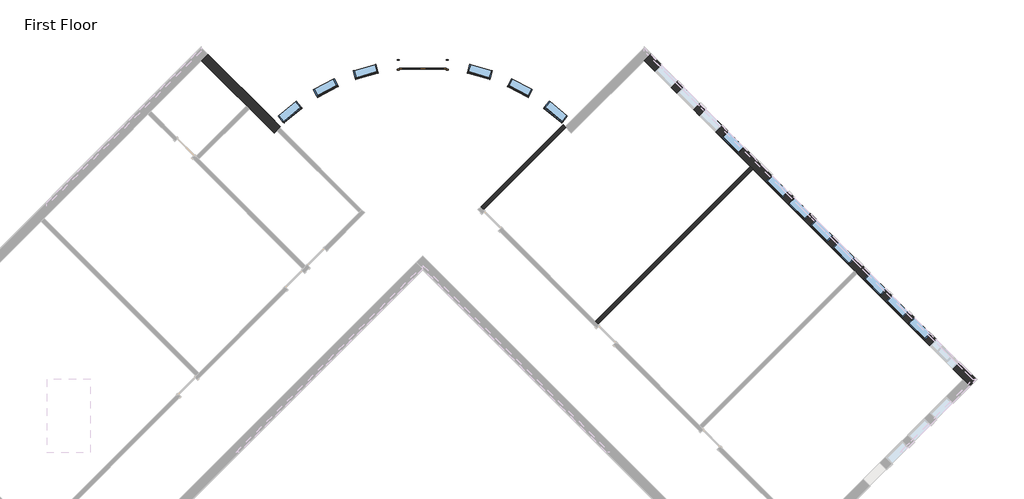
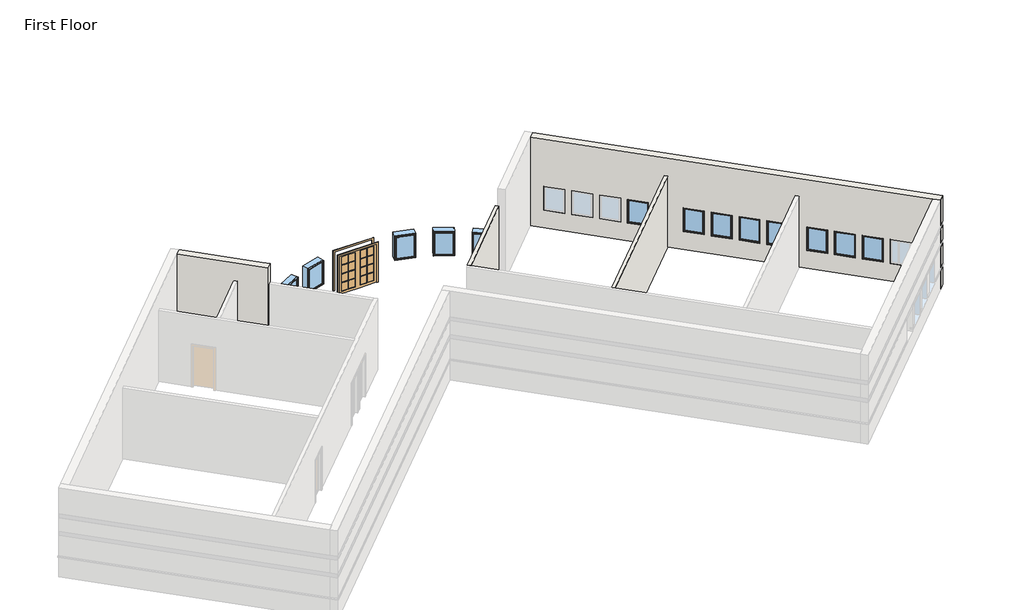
# One storey, part 2 of 3: 14 windows, 4 walls, 1 door.
"""IFC4 building model written with IfcOpenShell, lengths in millimetres."""

from ifc_helpers import new_model, si_unit, frame, origin, origin_with_axes, place, context, project, spatial, polyline, circle_curve, outline, extrude, faceted_brep, transform, mapped, element, save
from ifc_brep_helpers import plane_surface, cylinder_surface, revolved_surface, advanced_brep
from components import door_74f1c961, window_15c49d37, window_0e2fc6ce

model = new_model("IFC4")

# Units and contexts
model_context = context("Model", 3, world=origin())
ifc_project = project(units=[si_unit("LENGTHUNIT", "METRE", prefix="MILLI")], contexts=[model_context])

# Site, building, storey
site = spatial("IfcSite", under=ifc_project)
building = spatial("IfcBuilding", under=site)
storey = spatial("IfcBuildingStorey", under=building, Name="First Floor", Elevation=0.0)

# Door
placement = place(None, origin())
door_shape = door_74f1c961(model_context)
element("IfcDoor", 1, ObjectType="Double-Glass 2 : 72\" x 78\"", at=placement, inside=storey, context=model_context, shape_type="MappedRepresentation", body=[
    mapped(door_shape, transform((-3443.7425556, 10275.0854226, 0.0), x_axis=(-0.9999999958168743, -9.146721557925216e-05, 0.0), y_axis=(9.146721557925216e-05, -0.9999999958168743, 0.0), z_axis=(0.0, 0.0, 1.0))),
])

# Walls
element("IfcWall", 2, ObjectType="Exterior - Split Face and CMU on Mtl. Stud", at=placement, inside=storey, context=model_context, shape_type="Brep", body=[
    faceted_brep([(5178.0352806, 10444.6887918, 0.0), (9308.9530963, 6313.7709761, 0.0), (9418.9612338, 6203.7628386, 0.0), (13370.2739271, 2252.4501453, 0.0), (13480.2820645, 2142.4420078, 0.0), (17611.1998802, -1988.4758079, 0.0), (17860.4019876, -2237.6779152, 0.0), (17860.4019876, -2237.6779152, 1016.0), (17795.2951307, -2172.5710583, 1016.0), (17795.2951307, -2172.5710583, 1085.85), (17860.4019876, -2237.6779152, 1085.85), (17860.4019876, -2237.6779152, 2133.6), (17795.2951307, -2172.5710583, 2133.6), (17795.2951307, -2172.5710583, 2336.8), (17860.4019876, -2237.6779152, 2336.8), (17860.4019876, -2237.6779152, 3048.0), (17795.2951307, -2172.5710583, 3048.0), (17795.2951307, -2172.5710583, 3251.2), (17860.4019876, -2237.6779152, 3251.2), (17860.4019876, -2237.6779152, 4572.0), (17611.1998802, -1988.4758079, 4572.0), (5178.0352806, 10444.6887918, 4572.0), (17196.9855667, -1574.2614943, 2133.6), (17196.9855667, -1574.2614943, 914.4), (16301.2050186, -678.4809462, 914.4), (16301.2050186, -678.4809462, 2133.6), (5592.2495942, 10030.4744782, 914.4), (5592.2495942, 10030.4744782, 2133.6), (6238.8280349, 9383.8960375, 2133.6), (6238.8280349, 9383.8960375, 914.4), (6454.3541818, 9168.3698906, 914.4), (6454.3541818, 9168.3698906, 2133.6), (7100.9326225, 8521.7914498, 2133.6), (7100.9326225, 8521.7914498, 914.4), (7316.4587694, 8306.2653029, 914.4), (7316.4587694, 8306.2653029, 2133.6), (7963.0372102, 7659.6868622, 2133.6), (7963.0372102, 7659.6868622, 914.4), (8178.5633571, 7444.1607153, 914.4), (8178.5633571, 7444.1607153, 2133.6), (8825.1417978, 6797.5822746, 2133.6), (8825.1417978, 6797.5822746, 914.4), (10549.350973, 5073.3730993, 2133.6), (10549.350973, 5073.3730993, 914.4), (9902.7725323, 5719.9515401, 914.4), (9902.7725323, 5719.9515401, 2133.6), (11411.4555607, 4211.2685117, 2133.6), (11411.4555607, 4211.2685117, 914.4), (10764.8771199, 4857.8469524, 914.4), (10764.8771199, 4857.8469524, 2133.6), (12273.5601483, 3349.1639241, 2133.6), (12273.5601483, 3349.1639241, 914.4), (11626.9817076, 3995.7423648, 914.4), (11626.9817076, 3995.7423648, 2133.6), (13135.6647359, 2487.0593365, 2133.6), (13135.6647359, 2487.0593365, 914.4), (12489.0862952, 3133.6377772, 914.4), (12489.0862952, 3133.6377772, 2133.6), (15439.100431, 183.6236414, 914.4), (15439.100431, 183.6236414, 2133.6), (16085.6788717, -462.9547993, 2133.6), (16085.6788717, -462.9547993, 914.4), (14576.9958433, 1045.728229, 914.4), (14576.9958433, 1045.728229, 2133.6), (15223.574284, 399.1497883, 2133.6), (15223.574284, 399.1497883, 914.4), (13714.8912557, 1907.8328167, 914.4), (13714.8912557, 1907.8328167, 2133.6), (14361.4696964, 1261.2543759, 2133.6), (14361.4696964, 1261.2543759, 914.4), (5427.237388, 10693.8908991, 4572.0), (18109.604095, -1988.4758079, 4572.0), (18109.604095, -1988.4758079, 3251.2), (5427.237388, 10693.8908991, 3251.2), (18109.604095, -1988.4758079, 0.0), (5427.237388, 10693.8908991, 0.0), (5427.237388, 10693.8908991, 1016.0), (5841.4517016, 10279.6765855, 1016.0), (5841.4517016, 10279.6765855, 914.4), (6488.0301423, 9633.0981448, 914.4), (6488.0301423, 9633.0981448, 1016.0), (6703.5562892, 9417.5719979, 1016.0), (6703.5562892, 9417.5719979, 914.4), (7350.1347299, 8770.9935572, 914.4), (7350.1347299, 8770.9935572, 1016.0), (7565.6608768, 8555.4674103, 1016.0), (7565.6608768, 8555.4674103, 914.4), (8212.2393175, 7908.8889696, 914.4), (8212.2393175, 7908.8889696, 1016.0), (8427.7654644, 7693.3628227, 1016.0), (8427.7654644, 7693.3628227, 914.4), (9074.3439051, 7046.7843819, 914.4), (9074.3439051, 7046.7843819, 1016.0), (10151.9746397, 5969.1536474, 1016.0), (10151.9746397, 5969.1536474, 914.4), (10798.5530804, 5322.5752067, 914.4), (10798.5530804, 5322.5752067, 1016.0), (11014.0792273, 5107.0490598, 1016.0), (11014.0792273, 5107.0490598, 914.4), (11660.657668, 4460.4706191, 914.4), (11660.657668, 4460.4706191, 1016.0), (11876.1838149, 4244.9444722, 1016.0), (11876.1838149, 4244.9444722, 914.4), (12522.7622556, 3598.3660315, 914.4), (12522.7622556, 3598.3660315, 1016.0), (12738.2884025, 3382.8398846, 1016.0), (12738.2884025, 3382.8398846, 914.4), (13384.8668433, 2736.2614438, 914.4), (13384.8668433, 2736.2614438, 1016.0), (13964.0933631, 2157.034924, 1016.0), (13964.0933631, 2157.034924, 914.4), (14610.6718038, 1510.4564833, 914.4), (14610.6718038, 1510.4564833, 1016.0), (14826.1979507, 1294.9303364, 1016.0), (14826.1979507, 1294.9303364, 914.4), (15472.7763914, 648.3518957, 914.4), (15472.7763914, 648.3518957, 1016.0), (15688.3025383, 432.8257488, 1016.0), (15688.3025383, 432.8257488, 914.4), (16334.880979, -213.7526919, 914.4), (16334.880979, -213.7526919, 1016.0), (16550.4071259, -429.2788388, 1016.0), (16550.4071259, -429.2788388, 914.4), (17446.187674, -1325.0593869, 914.4), (17446.187674, -1325.0593869, 1016.0), (18109.604095, -1988.4758079, 1016.0), (18109.604095, -1988.4758079, 1085.85), (17446.187674, -1325.0593869, 1085.85), (17446.187674, -1325.0593869, 2133.6), (18109.604095, -1988.4758079, 2133.6), (5841.4517016, 10279.6765855, 1085.85), (5427.237388, 10693.8908991, 1085.85), (5427.237388, 10693.8908991, 2133.6), (5841.4517016, 10279.6765855, 2133.6), (18109.604095, -1988.4758079, 2336.8), (5427.237388, 10693.8908991, 2336.8), (5427.237388, 10693.8908991, 3048.0), (18109.604095, -1988.4758079, 3048.0), (16334.880979, -213.7526919, 2133.6), (16550.4071259, -429.2788388, 2133.6), (16550.4071259, -429.2788388, 1085.85), (16334.880979, -213.7526919, 1085.85), (6488.0301423, 9633.0981448, 1085.85), (6488.0301423, 9633.0981448, 2133.6), (6703.5562892, 9417.5719979, 2133.6), (6703.5562892, 9417.5719979, 1085.85), (15472.7763914, 648.3518957, 2133.6), (15688.3025383, 432.8257488, 2133.6), (15688.3025383, 432.8257488, 1085.85), (15472.7763914, 648.3518957, 1085.85), (7350.1347299, 8770.9935572, 1085.85), (7350.1347299, 8770.9935572, 2133.6), (7565.6608768, 8555.4674103, 2133.6), (7565.6608768, 8555.4674103, 1085.85), (14610.6718038, 1510.4564833, 2133.6), (14826.1979507, 1294.9303364, 2133.6), (14826.1979507, 1294.9303364, 1085.85), (14610.6718038, 1510.4564833, 1085.85), (8212.2393175, 7908.8889696, 1085.85), (8212.2393175, 7908.8889696, 2133.6), (8427.7654644, 7693.3628227, 2133.6), (8427.7654644, 7693.3628227, 1085.85), (13384.8668433, 2736.2614438, 2133.6), (13964.0933631, 2157.034924, 2133.6), (13964.0933631, 2157.034924, 1085.85), (13384.8668433, 2736.2614438, 1085.85), (9074.3439051, 7046.7843819, 1085.85), (9074.3439051, 7046.7843819, 2133.6), (10151.9746397, 5969.1536474, 2133.6), (10151.9746397, 5969.1536474, 1085.85), (12522.7622556, 3598.3660315, 2133.6), (12738.2884025, 3382.8398846, 2133.6), (12738.2884025, 3382.8398846, 1085.85), (12522.7622556, 3598.3660315, 1085.85), (10798.5530804, 5322.5752067, 1085.85), (10798.5530804, 5322.5752067, 2133.6), (11014.0792273, 5107.0490598, 2133.6), (11014.0792273, 5107.0490598, 1085.85), (11660.657668, 4460.4706191, 1085.85), (11660.657668, 4460.4706191, 2133.6), (11876.1838149, 4244.9444722, 2133.6), (11876.1838149, 4244.9444722, 1085.85), (5362.1305311, 10628.7840422, 0.0), (18044.4972381, -2053.5826647, 0.0), (17979.3903812, -1988.4758079, 1085.85), (17381.0808171, -1390.1662438, 1085.85), (17381.0808171, -1390.1662438, 1016.0), (17979.3903812, -1988.4758079, 1016.0), (17979.3903812, -1988.4758079, 2133.6), (17381.0808171, -1390.1662438, 2133.6), (16485.3002691, -494.3856957, 2133.6), (16269.7741222, -278.8595488, 2133.6), (15623.1956814, 367.7188919, 2133.6), (15407.6695345, 583.2450388, 2133.6), (14761.0910938, 1229.8234795, 2133.6), (14545.5649469, 1445.3496264, 2133.6), (13898.9865062, 2091.9280671, 2133.6), (13319.7599864, 2671.154587, 2133.6), (12673.1815457, 3317.7330277, 2133.6), (12457.6553988, 3533.2591746, 2133.6), (11811.076958, 4179.8376153, 2133.6), (11595.5508111, 4395.3637622, 2133.6), (10948.9723704, 5041.9422029, 2133.6), (10733.4462235, 5257.4683498, 2133.6), (10086.8677828, 5904.0467905, 2133.6), (9009.2370483, 6981.6775251, 2133.6), (8362.6586076, 7628.2559658, 2133.6), (8147.1324606, 7843.7821127, 2133.6), (7500.5540199, 8490.3605534, 2133.6), (7285.027873, 8705.8867003, 2133.6), (6638.4494323, 9352.465141, 2133.6), (6422.9232854, 9567.9912879, 2133.6), (5776.3448447, 10214.5697287, 2133.6), (5362.1305311, 10628.7840422, 2133.6), (5362.1305311, 10628.7840422, 2336.8), (17979.3903812, -1988.4758079, 2336.8), (17979.3903812, -1988.4758079, 3251.2), (17979.3903812, -1988.4758079, 3048.0), (5362.1305311, 10628.7840422, 3048.0), (5362.1305311, 10628.7840422, 3251.2), (5362.1305311, 10628.7840422, 1085.85), (5362.1305311, 10628.7840422, 1016.0), (5776.3448447, 10214.5697287, 1085.85), (5776.3448447, 10214.5697287, 1016.0), (16269.7741222, -278.8595488, 1085.85), (16485.3002691, -494.3856957, 1085.85), (16485.3002691, -494.3856957, 1016.0), (16269.7741222, -278.8595488, 1016.0), (6422.9232854, 9567.9912879, 1085.85), (6422.9232854, 9567.9912879, 1016.0), (15407.6695345, 583.2450388, 1085.85), (15623.1956814, 367.7188919, 1085.85), (15623.1956814, 367.7188919, 1016.0), (15407.6695345, 583.2450388, 1016.0), (6638.4494323, 9352.465141, 1016.0), (6638.4494323, 9352.465141, 1085.85), (7285.027873, 8705.8867003, 1085.85), (7285.027873, 8705.8867003, 1016.0), (14545.5649469, 1445.3496264, 1085.85), (14761.0910938, 1229.8234795, 1085.85), (14761.0910938, 1229.8234795, 1016.0), (14545.5649469, 1445.3496264, 1016.0), (7500.5540199, 8490.3605534, 1016.0), (7500.5540199, 8490.3605534, 1085.85), (8147.1324606, 7843.7821127, 1085.85), (8147.1324606, 7843.7821127, 1016.0), (13319.7599864, 2671.154587, 1085.85), (13898.9865062, 2091.9280671, 1085.85), (13898.9865062, 2091.9280671, 1016.0), (13319.7599864, 2671.154587, 1016.0), (8362.6586076, 7628.2559658, 1016.0), (8362.6586076, 7628.2559658, 1085.85), (9009.2370483, 6981.6775251, 1085.85), (9009.2370483, 6981.6775251, 1016.0), (12457.6553988, 3533.2591746, 1085.85), (12673.1815457, 3317.7330277, 1085.85), (12673.1815457, 3317.7330277, 1016.0), (12457.6553988, 3533.2591746, 1016.0), (10733.4462235, 5257.4683498, 1085.85), (10733.4462235, 5257.4683498, 1016.0), (10086.8677828, 5904.0467905, 1016.0), (10086.8677828, 5904.0467905, 1085.85), (11595.5508111, 4395.3637622, 1085.85), (11595.5508111, 4395.3637622, 1016.0), (10948.9723704, 5041.9422029, 1016.0), (10948.9723704, 5041.9422029, 1085.85), (11811.076958, 4179.8376153, 1016.0), (11811.076958, 4179.8376153, 1085.85)], [[[0, 1, 2, 3, 4, 5, 6, 7, 8, 9, 10, 11, 12, 13, 14, 15, 16, 17, 18, 19, 20, 21], [22, 23, 24, 25], [26, 27, 28, 29], [30, 31, 32, 33], [34, 35, 36, 37], [38, 39, 40, 41], [42, 43, 44, 45], [46, 47, 48, 49], [50, 51, 52, 53], [54, 55, 56, 57], [58, 59, 60, 61], [62, 63, 64, 65], [66, 67, 68, 69]], [[70, 71, 72, 73]], [[74, 75, 76, 77, 78, 79, 80, 81, 82, 83, 84, 85, 86, 87, 88, 89, 90, 91, 92, 93, 94, 95, 96, 97, 98, 99, 100, 101, 102, 103, 104, 105, 106, 107, 108, 109, 110, 111, 112, 113, 114, 115, 116, 117, 118, 119, 120, 121, 122, 123, 124, 125]], [[126, 127, 128, 129]], [[130, 131, 132, 133]], [[134, 135, 136, 137]], [[138, 139, 140, 141]], [[142, 143, 144, 145]], [[146, 147, 148, 149]], [[150, 151, 152, 153]], [[154, 155, 156, 157]], [[158, 159, 160, 161]], [[162, 163, 164, 165]], [[166, 167, 168, 169]], [[170, 171, 172, 173]], [[174, 175, 176, 177]], [[178, 179, 180, 181]], [[21, 20, 19, 71, 70]], [[6, 5, 4, 3, 2, 1, 0, 182, 183]], [[184, 185, 127, 126, 10, 9]], [[186, 187, 8, 7, 125, 124]], [[185, 184, 187, 186]], [[188, 189, 190, 191, 192, 193, 194, 195, 196, 197, 198, 199, 200, 201, 202, 203, 204, 205, 206, 207, 208, 209, 210, 211, 212, 213, 214, 215]], [[216, 217, 218, 219]], [[0, 21, 70, 73, 219, 218, 136, 135, 214, 213, 132, 131, 220, 221, 76, 75, 182]], [[75, 74, 183, 182]], [[131, 130, 222, 220]], [[77, 76, 221, 223]], [[132, 213, 212, 133]], [[189, 188, 12, 11, 129, 128]], [[139, 138, 191, 190]], [[143, 211, 210, 144]], [[147, 146, 193, 192]], [[151, 209, 208, 152]], [[155, 154, 195, 194]], [[159, 207, 206, 160]], [[163, 162, 197, 196]], [[167, 205, 204, 168]], [[171, 170, 199, 198]], [[201, 200, 180, 179]], [[203, 202, 176, 175]], [[215, 214, 135, 134, 14, 13]], [[218, 217, 16, 15, 137, 136]], [[17, 216, 219, 73, 72, 18]], [[71, 19, 18, 72]], [[6, 183, 74, 125, 7]], [[14, 134, 137, 15]], [[11, 10, 126, 129]], [[188, 215, 13, 12]], [[217, 216, 17, 16]], [[23, 123, 122, 24]], [[23, 22, 189, 128, 127, 185, 186, 124, 123]], [[189, 22, 25, 190]], [[224, 225, 226, 227]], [[27, 26, 78, 77, 223, 222, 130, 133, 212]], [[79, 78, 26, 29]], [[29, 28, 211, 143, 142, 228, 229, 80, 79]], [[28, 27, 212, 211]], [[230, 231, 232, 233]], [[225, 224, 141, 140]], [[227, 226, 121, 120]], [[31, 30, 82, 81, 234, 235, 145, 144, 210]], [[83, 82, 30, 33]], [[33, 32, 209, 151, 150, 236, 237, 84, 83]], [[32, 31, 210, 209]], [[238, 239, 240, 241]], [[231, 230, 149, 148]], [[233, 232, 117, 116]], [[35, 34, 86, 85, 242, 243, 153, 152, 208]], [[87, 86, 34, 37]], [[37, 36, 207, 159, 158, 244, 245, 88, 87]], [[36, 35, 208, 207]], [[246, 247, 248, 249]], [[239, 238, 157, 156]], [[241, 240, 113, 112]], [[39, 38, 90, 89, 250, 251, 161, 160, 206]], [[91, 90, 38, 41]], [[41, 40, 205, 167, 166, 252, 253, 92, 91]], [[40, 39, 206, 205]], [[254, 255, 256, 257]], [[247, 246, 165, 164]], [[249, 248, 109, 108]], [[43, 42, 203, 175, 174, 258, 259, 96, 95]], [[44, 43, 95, 94]], [[45, 44, 94, 93, 260, 261, 169, 168, 204]], [[42, 45, 204, 203]], [[47, 46, 201, 179, 178, 262, 263, 100, 99]], [[48, 47, 99, 98]], [[49, 48, 98, 97, 264, 265, 177, 176, 202]], [[46, 49, 202, 201]], [[51, 50, 199, 170, 173, 254, 257, 104, 103]], [[52, 51, 103, 102]], [[53, 52, 102, 101, 266, 267, 181, 180, 200]], [[50, 53, 200, 199]], [[55, 54, 197, 162, 165, 246, 249, 108, 107]], [[56, 55, 107, 106]], [[57, 56, 106, 105, 256, 255, 172, 171, 198]], [[54, 57, 198, 197]], [[244, 251, 250, 245]], [[261, 252, 166, 169]], [[253, 260, 93, 92]], [[252, 261, 260, 253]], [[265, 258, 174, 177]], [[259, 264, 97, 96]], [[258, 265, 264, 259]], [[267, 262, 178, 181]], [[263, 266, 101, 100]], [[262, 267, 266, 263]], [[255, 254, 173, 172]], [[257, 256, 105, 104]], [[24, 122, 121, 226, 225, 140, 139, 190, 25]], [[59, 58, 118, 117, 232, 231, 148, 147, 192]], [[119, 118, 58, 61]], [[61, 60, 191, 138, 141, 224, 227, 120, 119]], [[60, 59, 192, 191]], [[63, 62, 114, 113, 240, 239, 156, 155, 194]], [[115, 114, 62, 65]], [[65, 64, 193, 146, 149, 230, 233, 116, 115]], [[64, 63, 194, 193]], [[67, 66, 110, 109, 248, 247, 164, 163, 196]], [[111, 110, 66, 69]], [[69, 68, 195, 154, 157, 238, 241, 112, 111]], [[68, 67, 196, 195]], [[220, 222, 223, 221]], [[235, 228, 142, 145]], [[229, 234, 81, 80]], [[228, 235, 234, 229]], [[243, 236, 150, 153]], [[237, 242, 85, 84]], [[236, 243, 242, 237]], [[251, 244, 158, 161]], [[245, 250, 89, 88]], [[187, 184, 9, 8]]]),
])
element("IfcWall", 3, ObjectType="Exterior - Split Face and CMU on Mtl. Stud", at=placement, inside=storey, context=model_context, shape_type="AdvancedBrep", body=[
    advanced_brep(
    [(-12064.0564718, 10444.6887918, 0.0), (-10303.9262721, 8684.558592, 0.0), (-10193.9181346, 8574.5504545, 0.0), (-9232.9945042, 7613.6268242, 0.0), (-9232.9945042, 7613.6268242, 4572.0), (-12064.0564718, 10444.6887918, 4572.0), (-11814.8543645, 10693.8908991, 4572.0), (-9237.4684553, 8116.50499, 4572.0), (-8988.2640035, 7867.3005381, 4572.0), (-8988.2640035, 7867.3005381, 0.0), (-9237.4684553, 8116.50499, 0.0), (-11814.8543645, 10693.8908991, 0.0), (-11814.8543645, 10693.8908991, 1016.0), (-9237.4684553, 8116.50499, 1016.0), (-9172.3610055, 8051.3975402, 1016.0), (-9172.3610055, 8051.3975402, 1085.85), (-9237.4684553, 8116.50499, 1085.85), (-11814.8543645, 10693.8908991, 1085.85), (-11814.8543645, 10693.8908991, 2133.6), (-9237.4684553, 8116.50499, 2133.6), (-9172.3610055, 8051.3975402, 2133.6), (-9172.3610055, 8051.3975402, 2336.8), (-9237.4684553, 8116.50499, 2336.8), (-11814.8543645, 10693.8908991, 2336.8), (-11814.8543645, 10693.8908991, 3048.0), (-9237.4684553, 8116.50499, 3048.0), (-9172.3610055, 8051.3975402, 3048.0), (-9172.3610055, 8051.3975402, 3251.2), (-9237.4684553, 8116.50499, 3251.2), (-11814.8543645, 10693.8908991, 3251.2), (-11879.9612214, 10628.7840422, 0.0), (-9053.2790111, 7802.1018319, 0.0), (-9132.9267624, 7720.1083444, 0.0), (-9237.3789518, 7986.2017727, 1016.0), (-11879.9612214, 10628.7840422, 1016.0), (-11879.9612214, 10628.7840422, 1085.85), (-9237.3789518, 7986.2017727, 1085.85), (-9237.3789518, 7986.2017727, 2133.6), (-11879.9612214, 10628.7840422, 2133.6), (-11879.9612214, 10628.7840422, 2336.8), (-9237.3789518, 7986.2017727, 2336.8), (-9237.3789518, 7986.2017727, 3251.2), (-9237.3789518, 7986.2017727, 3048.0), (-11879.9612214, 10628.7840422, 3048.0), (-11879.9612214, 10628.7840422, 3251.2), (-9024.2284446, 7831.4229682, 0.0)],
    [
        (0, 1),
        (1, 2),
        (2, 3),
        (3, 4),
        (4, 5),
        (5, 0),
        (6, 7),
        (7, 8),
        (8, 9),
        (9, 10),
        (10, 11),
        (11, 12),
        (12, 13),
        (13, 14),
        (14, 15),
        (15, 16),
        (16, 17),
        (17, 18),
        (18, 19),
        (19, 20),
        (20, 21),
        (21, 22),
        (22, 23),
        (23, 24),
        (24, 25),
        (25, 26),
        (26, 27),
        (27, 28),
        (28, 29),
        (29, 6),
        (4, 8, circle_curve(frame((-3443.0105956, 2272.6557216, 4572.0), z_axis=(0.0, 0.0, -1.0), x_axis=(1.0, 0.0, 0.0)), 7877.175)),
        (6, 5),
        (0, 30),
        (30, 31),
        (31, 32, circle_curve(frame((-3443.0105956, 2272.6557216, 0.0), z_axis=(0.0, 0.0, 1.0), x_axis=(1.0, 0.0, 0.0)), 7877.175)),
        (32, 3, circle_curve(frame((-3443.0105956, 2272.6557216, 0.0), z_axis=(0.0, 0.0, 1.0), x_axis=(1.0, 0.0, 0.0)), 7877.1750052)),
        (33, 34),
        (34, 35),
        (35, 36),
        (36, 33),
        (37, 38),
        (38, 39),
        (39, 40),
        (40, 37),
        (41, 42),
        (42, 43),
        (43, 44),
        (44, 41),
        (29, 44),
        (43, 24),
        (23, 39),
        (38, 18),
        (17, 35),
        (34, 12),
        (11, 30),
        (9, 45, circle_curve(frame((-3443.0105956, 2272.6557216, 0.0), z_axis=(0.0, 0.0, 1.0), x_axis=(1.0, 0.0, 0.0)), 7877.175)),
        (45, 31, circle_curve(frame((-3443.0105956, 2272.6557216, 0.0), z_axis=(0.0, 0.0, 1.0), x_axis=(1.0, 0.0, 0.0)), 7877.175)),
        (15, 36, circle_curve(frame((-3443.0105956, 2272.6557216, 1085.85), z_axis=(0.0, 0.0, 1.0), x_axis=(-0.7040995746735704, 0.7101012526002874, 0.0)), 8137.525)),
        (33, 14, circle_curve(frame((-3443.0105956, 2272.6557216, 1016.0), z_axis=(0.0, 0.0, -1.0), x_axis=(-0.7040995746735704, 0.7101012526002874, 0.0)), 8137.525)),
        (37, 20, circle_curve(frame((-3443.0105956, 2272.6557216, 2133.6), z_axis=(0.0, 0.0, -1.0), x_axis=(-0.712055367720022, 0.7021233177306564, 0.0)), 8137.525)),
        (40, 21, circle_curve(frame((-3443.0105956, 2272.6557216, 2336.8), z_axis=(0.0, 0.0, -1.0), x_axis=(-0.712055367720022, 0.7021233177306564, 0.0)), 8137.525)),
        (42, 26, circle_curve(frame((-3443.0105956, 2272.6557216, 3048.0), z_axis=(0.0, 0.0, -1.0), x_axis=(-0.712055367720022, 0.7021233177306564, 0.0)), 8137.525)),
        (41, 27, circle_curve(frame((-3443.0105956, 2272.6557216, 3251.2), z_axis=(0.0, 0.0, -1.0), x_axis=(-0.712055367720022, 0.7021233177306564, 0.0)), 8137.525)),
    ],
    [
        plane_surface(frame((-12313.2585792, 10693.8908991, 0.0), z_axis=(-0.707106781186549, -0.7071067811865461, 0.0), x_axis=(0.7071067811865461, -0.707106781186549, 0.0))),
        plane_surface(frame((-12064.0564718, 10943.0930065, 0.0), z_axis=(0.707106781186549, 0.7071067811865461, 0.0), x_axis=(-0.7071067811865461, 0.707106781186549, 0.0))),
        plane_surface(frame((-9361.2454813, 7741.8778012, 4572.0), z_axis=(0.0, 0.0, 1.0), x_axis=(0.7071067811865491, 0.707106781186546, 0.0))),
        plane_surface(frame((-12188.6575255, 10569.2898454, 0.0), z_axis=(0.0, 0.0, -1.0), x_axis=(0.7071067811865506, 0.7071067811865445, 0.0))),
        plane_surface(frame((-12064.0564718, 10812.8792927, 1016.0), z_axis=(0.707106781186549, 0.707106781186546, 0.0), x_axis=(0.707106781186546, -0.707106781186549, 0.0))),
        plane_surface(frame((-12064.0564718, 10812.8792927, 2133.6), z_axis=(0.7071067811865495, 0.7071067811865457, 0.0), x_axis=(0.7071067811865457, -0.7071067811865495, 0.0))),
        plane_surface(frame((-12064.0564718, 10812.8792927, 3048.0), z_axis=(0.7071067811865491, 0.7071067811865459, 0.0), x_axis=(0.7071067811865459, -0.7071067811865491, 0.0))),
        plane_surface(frame((-24746.4231788, -2237.6779152, 0.0), z_axis=(-0.7071067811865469, 0.7071067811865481, 0.0), x_axis=(0.7071067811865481, 0.7071067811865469, 0.0))),
        plane_surface(frame((0.0, 0.0, 0.0), z_axis=(0.0, 0.0, -1.0), x_axis=(1.0, 0.0, 0.0))),
        plane_surface(frame((-3443.0105956, 2272.6557216, 1085.85), z_axis=(0.0, 0.0, -1.0), x_axis=(-0.7040995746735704, 0.7101012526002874, 0.0))),
        plane_surface(frame((-3443.0105956, 2272.6557216, 1016.0), z_axis=(0.0, 0.0, 1.0), x_axis=(-0.7040995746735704, 0.7101012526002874, 0.0))),
        cylinder_surface(frame((-3443.0105956, 2272.6557216, 1016.0), z_axis=(0.0, 0.0, -1.0), x_axis=(-0.7040995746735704, 0.7101012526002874, 0.0)), 8137.525),
        plane_surface(frame((-3443.0105956, 2272.6557216, 2133.6), z_axis=(0.0, 0.0, 1.0), x_axis=(-0.712055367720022, 0.7021233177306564, 0.0))),
        cylinder_surface(frame((-3443.0105956, 2272.6557216, 2133.6), z_axis=(0.0, 0.0, -1.0), x_axis=(-0.712055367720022, 0.7021233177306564, 0.0)), 8137.525),
        plane_surface(frame((-3443.0105956, 2272.6557216, 2336.8), z_axis=(0.0, 0.0, -1.0), x_axis=(-0.712055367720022, 0.7021233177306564, 0.0))),
        plane_surface(frame((-3443.0105956, 2272.6557216, 3048.0), z_axis=(0.0, 0.0, 1.0), x_axis=(-0.712055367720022, 0.7021233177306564, 0.0))),
        cylinder_surface(frame((-3443.0105956, 2272.6557216, 3048.0), z_axis=(0.0, 0.0, -1.0), x_axis=(-0.712055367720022, 0.7021233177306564, 0.0)), 8137.525),
        plane_surface(frame((-3443.0105956, 2272.6557216, 3251.2), z_axis=(0.0, 0.0, -1.0), x_axis=(-0.712055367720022, 0.7021233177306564, 0.0))),
        revolved_surface(polyline([(4434.1644044, 2272.6557216, 0.0), (4434.1644044, 2272.6557216, 4572.0)]), (-3443.0105956, 2272.6557216, 0.0), (0.0, 0.0, -1.0)),
    ],
    [
        (0, [[1, 2, 3, 4, 5, 6]]),
        (1, [[7, 8, 9, 10, 11, 12, 13, 14, 15, 16, 17, 18, 19, 20, 21, 22, 23, 24, 25, 26, 27, 28, 29, 30]]),
        (2, [[-5, 31, -8, -7, 32]]),
        (3, [[-3, -2, -1, 33, 34, 35, 36]]),
        (4, [[37, 38, 39, 40]]),
        (5, [[41, 42, 43, 44]]),
        (6, [[45, 46, 47, 48]]),
        (7, [[-6, -32, -30, 49, -47, 50, -24, 51, -42, 52, -18, 53, -38, 54, -12, 55, -33]]),
        (8, [[-11, -10, 56, 57, -34, -55]]),
        (9, [[-39, -53, -17, -16, 58]]),
        (10, [[-37, 59, -14, -13, -54]]),
        (11, [[-40, -58, -15, -59]]),
        (12, [[-41, 60, -20, -19, -52]]),
        (13, [[-44, 61, -21, -60]]),
        (14, [[-43, -51, -23, -22, -61]]),
        (15, [[-46, 62, -26, -25, -50]]),
        (16, [[-45, 63, -27, -62]]),
        (17, [[-63, -48, -49, -29, -28]]),
        (18, [[-31, -4, -36, -35, -57, -56, -9]]),
    ],
),
])
element("IfcWall", 4, ObjectType="Interior - 6 1/8\" Partition (2-hr)", at=placement, inside=storey, context=model_context, shape_type="AdvancedBrep", body=[
    advanced_brep(
    [(-1077.8356397, 4626.6053573, 0.0), (2132.6030957, 7837.0440928, 0.0), (2132.6030957, 7837.0440928, 3657.6), (-1077.8356397, 4626.6053573, 3657.6), (-1187.8437772, 4736.6134948, 0.0), (-1187.8437772, 4736.6134948, 3657.6), (2021.619387, 7946.076659, 3657.6), (2021.619387, 7946.076659, 0.0), (2102.2424893, 7867.3008561, 0.0)],
    [
        (0, 1),
        (1, 2),
        (2, 3),
        (3, 0),
        (4, 5),
        (5, 6),
        (6, 7),
        (7, 4),
        (0, 4),
        (7, 8, circle_curve(frame((-3443.0105956, 2272.6557216, 0.0), z_axis=(0.0, 0.0, -1.0), x_axis=(1.0, 0.0, 0.0)), 7877.175)),
        (8, 1, circle_curve(frame((-3443.0105956, 2272.6557216, 0.0), z_axis=(0.0, 0.0, -1.0), x_axis=(1.0, 0.0, 0.0)), 7877.1749985)),
        (2, 6, circle_curve(frame((-3443.0105956, 2272.6557216, 3657.6), z_axis=(0.0, 0.0, 1.0), x_axis=(1.0, 0.0, 0.0)), 7877.175)),
        (5, 3),
    ],
    [
        plane_surface(frame((-1132.8397085, 4571.6012886, 0.0), z_axis=(0.707106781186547, -0.7071067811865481, 0.0), x_axis=(0.7071067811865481, 0.707106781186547, 0.0))),
        plane_surface(frame((-1242.8478459, 4681.6094261, 0.0), z_axis=(-0.707106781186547, 0.7071067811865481, 0.0), x_axis=(-0.7071067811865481, -0.707106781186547, 0.0))),
        plane_surface(frame((-1132.8397085, 4571.6012886, 0.0), z_axis=(0.0, 0.0, -1.0000000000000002), x_axis=(-0.7071067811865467, 0.7071067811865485, 0.0))),
        plane_surface(frame((2256.9927783, 7961.4337753, 3657.6), z_axis=(0.0, 0.0, 1.0000000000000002), x_axis=(-0.7071067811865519, 0.7071067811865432, 0.0))),
        plane_surface(frame((11698.8237565, -8150.0540389, 0.0), z_axis=(-0.7071067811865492, -0.7071067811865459, 0.0), x_axis=(-0.7071067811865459, 0.7071067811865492, 0.0))),
        cylinder_surface(frame((-3443.0105956, 2272.6557216, 0.0), z_axis=(0.0, 0.0, -1.0), x_axis=(1.0, 0.0, 0.0)), 7877.175),
    ],
    [
        (0, [[1, 2, 3, 4]]),
        (1, [[5, 6, 7, 8]]),
        (2, [[-1, 9, -8, 10, 11]]),
        (3, [[-3, 12, -6, 13]]),
        (4, [[-4, -13, -5, -9]]),
        (5, [[-2, -11, -10, -7, -12]]),
    ],
),
])
element("IfcWall", 5, ObjectType="Interior - 6 1/8\" Partition (2-hr)", at=placement, inside=storey, context=model_context, shape_type="SweptSolid", body=[
    extrude(outline(polyline([(3271.9759189, 276.7937987), (9308.9530963, 6313.7709761), (9418.9612338, 6203.7628386), (3381.9840564, 166.7856612), (3271.9759189, 276.7937987)])), origin_with_axes(), (0.0, 0.0, 1.0), 3657.6),
])

# Windows
window_shape = window_15c49d37(model_context)
element("IfcWindow", 6, ObjectType="Fixed : 36\" x 48\"", at=placement, inside=storey, context=model_context, shape_type="MappedRepresentation", body=[
    mapped(window_shape, transform((-8641.2060106, 8407.2065347, 0.0), x_axis=(-0.7659856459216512, -0.6428576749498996, 0.0), y_axis=(0.6428576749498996, -0.7659856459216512, 0.0), z_axis=(0.0, 0.0, 1.0))),
])
element("IfcWindow", 7, ObjectType="Fixed : 36\" x 48\"", at=placement, inside=storey, context=model_context, shape_type="MappedRepresentation", body=[
    mapped(window_shape, transform((-7253.371199, 9353.2701952, 0.0), x_axis=(-0.8828248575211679, -0.4697023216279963, 0.0), y_axis=(0.4697023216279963, -0.8828248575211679, 0.0), z_axis=(0.0, 0.0, 1.0))),
])
element("IfcWindow", 8, ObjectType="Fixed : 36\" x 48\"", at=placement, inside=storey, context=model_context, shape_type="MappedRepresentation", body=[
    mapped(window_shape, transform((-5699.2744355, 9990.3770651, 0.0), x_axis=(-0.961142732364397, -0.27605189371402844, 0.0), y_axis=(0.27605189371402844, -0.961142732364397, 0.0), z_axis=(0.0, 0.0, 1.0))),
])
element("IfcWindow", 9, ObjectType="Fixed : 36\" x 48\"", at=placement, inside=storey, context=model_context, shape_type="MappedRepresentation", body=[
    mapped(window_shape, transform((8599.5128627, 7272.413317, 0.0), x_axis=(-0.7071067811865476, 0.7071067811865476, 0.0), y_axis=(-0.7071067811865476, -0.7071067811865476, 0.0), z_axis=(0.0, 0.0, 1.0))),
])
element("IfcWindow", 10, ObjectType="Fixed : 36\" x 48\"", at=placement, inside=storey, context=model_context, shape_type="MappedRepresentation", body=[
    mapped(window_shape, transform((14135.8407614, 1736.0854184, 0.0), x_axis=(-0.7071067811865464, 0.7071067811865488, 0.0), y_axis=(-0.7071067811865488, -0.7071067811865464, 0.0), z_axis=(0.0, 0.0, 1.0))),
])
element("IfcWindow", 11, ObjectType="Fixed : 36\" x 48\"", at=placement, inside=storey, context=model_context, shape_type="MappedRepresentation", body=[
    mapped(window_shape, transform((14997.945349, 873.9808307, 0.0), x_axis=(-0.7071067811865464, 0.7071067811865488, 0.0), y_axis=(-0.7071067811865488, -0.7071067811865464, 0.0), z_axis=(0.0, 0.0, 1.0))),
])
element("IfcWindow", 12, ObjectType="Fixed : 36\" x 48\"", at=placement, inside=storey, context=model_context, shape_type="MappedRepresentation", body=[
    mapped(window_shape, transform((15860.0499366, 11.8762431, 0.0), x_axis=(-0.7071067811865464, 0.7071067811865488, 0.0), y_axis=(-0.7071067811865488, -0.7071067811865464, 0.0), z_axis=(0.0, 0.0, 1.0))),
])
window_2_shape = window_0e2fc6ce(model_context)
element("IfcWindow", 13, ObjectType="Fixed : 36\" x 48\"", at=placement, inside=storey, context=model_context, shape_type="MappedRepresentation", body=[
    mapped(window_2_shape, transform((1754.0625119, 8408.157361, 0.0), x_axis=(0.7661032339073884, -0.6427175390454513, 0.0), y_axis=(0.6427175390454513, 0.7661032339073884, 0.0), z_axis=(0.0, 0.0, 1.0))),
])
element("IfcWindow", 14, ObjectType="Fixed : 36\" x 48\"", at=placement, inside=storey, context=model_context, shape_type="MappedRepresentation", body=[
    mapped(window_2_shape, transform((366.0546559, 9353.9671228, 0.0), x_axis=(0.8829107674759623, -0.4695408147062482, 0.0), y_axis=(0.4695408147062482, 0.8829107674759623, 0.0), z_axis=(0.0, 0.0, 1.0))),
])
element("IfcWindow", 15, ObjectType="Fixed : 36\" x 48\"", at=placement, inside=storey, context=model_context, shape_type="MappedRepresentation", body=[
    mapped(window_2_shape, transform((-1188.1586304, 9990.7896843, 0.0), x_axis=(0.9611932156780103, -0.2758760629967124, 0.0), y_axis=(0.2758760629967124, 0.9611932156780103, 0.0), z_axis=(0.0, 0.0, 1.0))),
])
element("IfcWindow", 16, ObjectType="Fixed : 36\" x 48\"", at=placement, inside=storey, context=model_context, shape_type="MappedRepresentation", body=[
    mapped(window_2_shape, transform((12963.9173376, 2908.0088422, 0.0), x_axis=(0.7071067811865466, -0.7071067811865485, 0.0), y_axis=(0.7071067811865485, 0.7071067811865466, 0.0), z_axis=(0.0, 0.0, 1.0))),
])
element("IfcWindow", 17, ObjectType="Fixed : 36\" x 48\"", at=placement, inside=storey, context=model_context, shape_type="MappedRepresentation", body=[
    mapped(window_2_shape, transform((12101.81275, 3770.1134298, 0.0), x_axis=(0.7071067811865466, -0.7071067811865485, 0.0), y_axis=(0.7071067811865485, 0.7071067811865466, 0.0), z_axis=(0.0, 0.0, 1.0))),
])
element("IfcWindow", 18, ObjectType="Fixed : 36\" x 48\"", at=placement, inside=storey, context=model_context, shape_type="MappedRepresentation", body=[
    mapped(window_2_shape, transform((11239.7081623, 4632.2180174, 0.0), x_axis=(0.7071067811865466, -0.7071067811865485, 0.0), y_axis=(0.7071067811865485, 0.7071067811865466, 0.0), z_axis=(0.0, 0.0, 1.0))),
])
element("IfcWindow", 19, ObjectType="Fixed : 36\" x 48\"", at=placement, inside=storey, context=model_context, shape_type="MappedRepresentation", body=[
    mapped(window_2_shape, transform((10377.6035747, 5494.322605, 0.0), x_axis=(0.7071067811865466, -0.7071067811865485, 0.0), y_axis=(0.7071067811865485, 0.7071067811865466, 0.0), z_axis=(0.0, 0.0, 1.0))),
])

save(model, "model.ifc")
